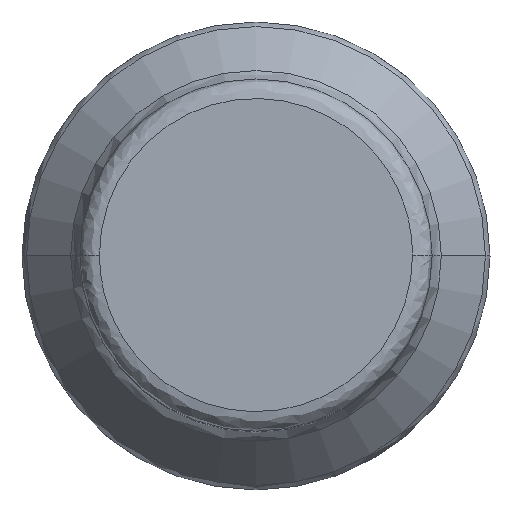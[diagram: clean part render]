
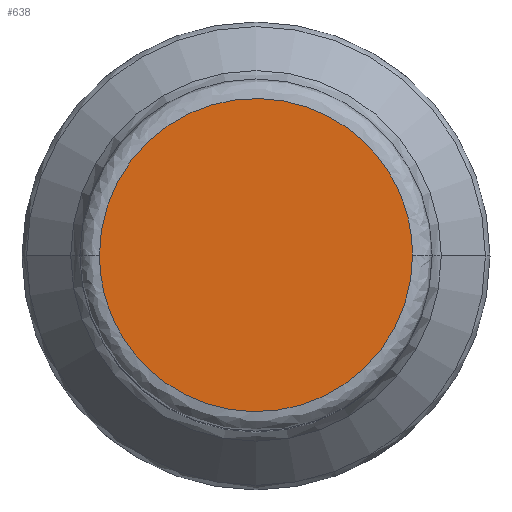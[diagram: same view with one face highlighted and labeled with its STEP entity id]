
A CAD part, top view. The second image highlights one B-rep face of the part: STEP entity #638.
In plain terms, the highlighted planar face has unit normal (0, 0, 1).
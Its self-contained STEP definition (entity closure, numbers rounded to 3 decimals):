
#83 = CARTESIAN_POINT ( 'NONE',  ( 2.032, 0., 0. ) ) ;
#84 = CARTESIAN_POINT ( 'NONE',  ( 2.032, 4.064, 0. ) ) ;
#85 = CARTESIAN_POINT ( 'NONE',  ( -2.032, 4.064, 0. ) ) ;
#86 = CARTESIAN_POINT ( 'NONE',  ( -2.032, 0., 0. ) ) ;
#186 = ORIENTED_EDGE ( 'NONE', *, *, #1114, .F. ) ;
#188 = ORIENTED_EDGE ( 'NONE', *, *, #970, .F. ) ;
#235 = EDGE_LOOP ( 'NONE', ( #186, #188 ) ) ;
#383 = VERTEX_POINT ( 'NONE', #1235 ) ;
#385 = VERTEX_POINT ( 'NONE', #1194 ) ;
#407 = CARTESIAN_POINT ( 'NONE',  ( 2.032, -4.064, 0. ) ) ;
#410 = CARTESIAN_POINT ( 'NONE',  ( -2.032, -4.064, 0. ) ) ;
#478 = CARTESIAN_POINT ( 'NONE',  ( -2.032, 0., 0. ) ) ;
#515 = CARTESIAN_POINT ( 'NONE',  ( 2.032, 0., 0. ) ) ;
#638 = ADVANCED_FACE ( 'NONE', ( #888 ), #1224, .T. ) ;
#888 = FACE_OUTER_BOUND ( 'NONE', #235, .T. ) ;
#970 = EDGE_CURVE ( 'NONE', #383, #385, #993, .T. ) ;
#993 =( BOUNDED_CURVE ( )  B_SPLINE_CURVE ( 3, ( #515, #407, #410, #478 ),
 .UNSPECIFIED., .F., .T. ) 
 B_SPLINE_CURVE_WITH_KNOTS ( ( 4, 4 ),
 ( 0., 1. ),
 .UNSPECIFIED. ) 
 CURVE ( )  GEOMETRIC_REPRESENTATION_ITEM ( )  RATIONAL_B_SPLINE_CURVE ( ( 1., 0.333, 0.333, 1. ) ) 
 REPRESENTATION_ITEM ( '' )  );
#1004 =( BOUNDED_CURVE ( )  B_SPLINE_CURVE ( 3, ( #86, #85, #84, #83 ),
 .UNSPECIFIED., .F., .T. ) 
 B_SPLINE_CURVE_WITH_KNOTS ( ( 4, 4 ),
 ( 0., 1. ),
 .UNSPECIFIED. ) 
 CURVE ( )  GEOMETRIC_REPRESENTATION_ITEM ( )  RATIONAL_B_SPLINE_CURVE ( ( 1., 0.333, 0.333, 1. ) ) 
 REPRESENTATION_ITEM ( '' )  );
#1114 = EDGE_CURVE ( 'NONE', #385, #383, #1004, .T. ) ;
#1121 = AXIS2_PLACEMENT_3D ( 'NONE', #1251, #1252, #1253 ) ;
#1194 = CARTESIAN_POINT ( 'NONE',  ( -2.032, 0., 0. ) ) ;
#1224 = PLANE ( 'NONE',  #1121 ) ;
#1235 = CARTESIAN_POINT ( 'NONE',  ( 2.032, 0., 0. ) ) ;
#1251 = CARTESIAN_POINT ( 'NONE',  ( 0., 0., 0. ) ) ;
#1252 = DIRECTION ( 'NONE',  ( 0., 0., 1. ) ) ;
#1253 = DIRECTION ( 'NONE',  ( 1., 0., 0. ) ) ;
